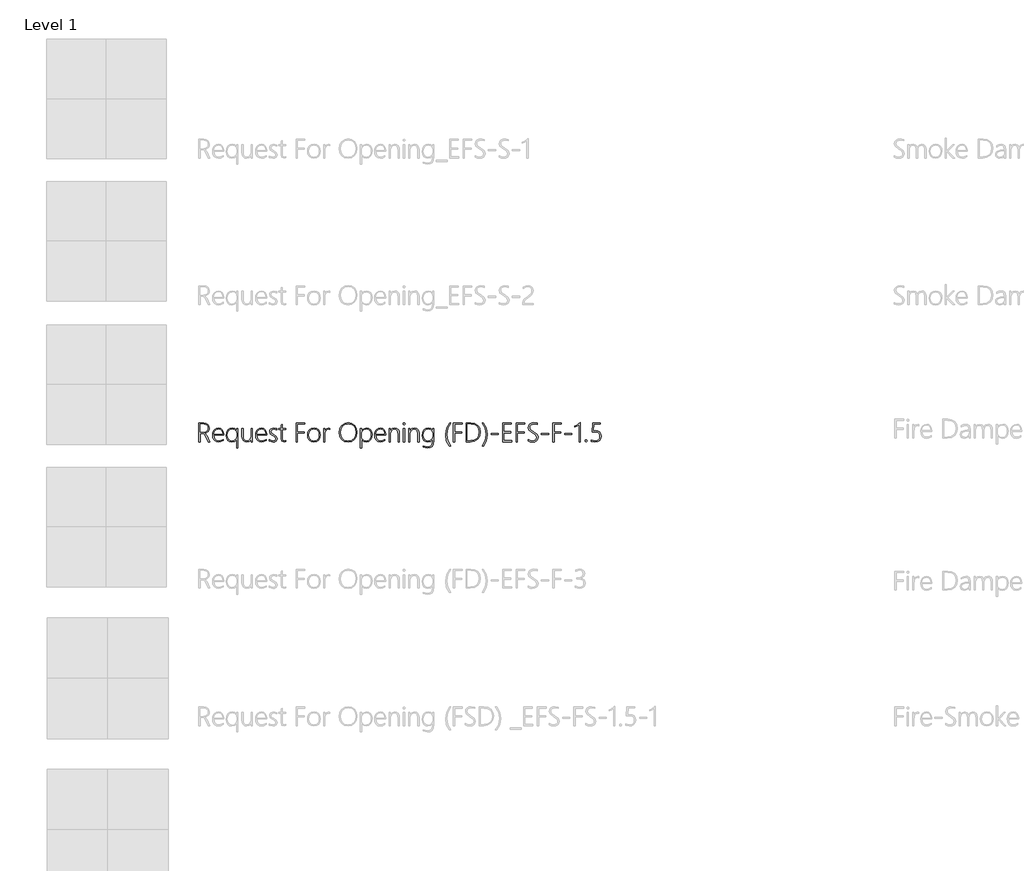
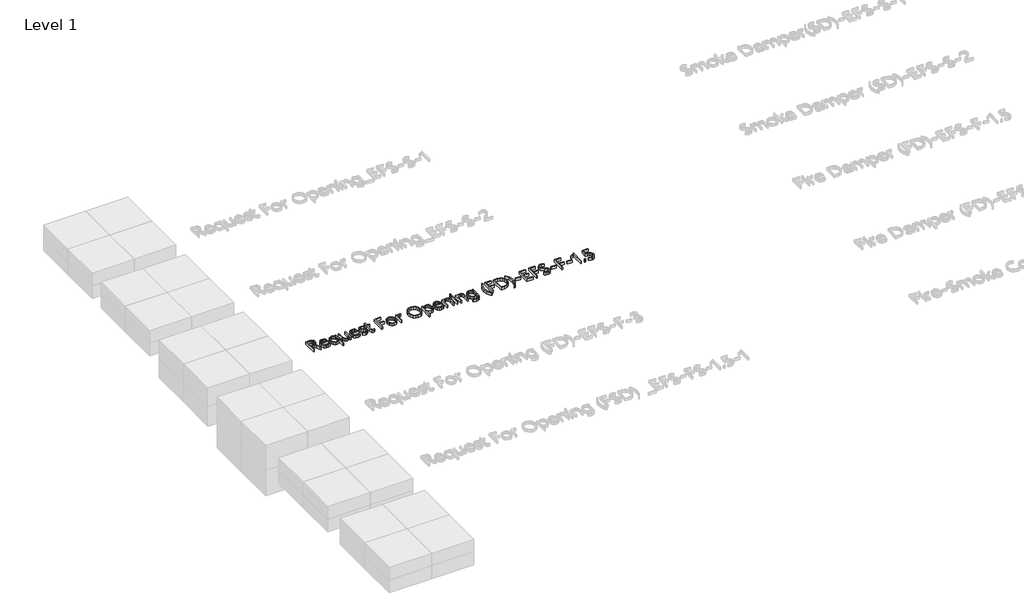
# One storey, part 6 of 13: 1 proxy.
"""IFC4 building model written with IfcOpenShell, lengths in millimetres."""

from ifc_helpers import new_model, si_unit, origin, origin_with_axes, place, context, project, spatial, polyline, outline, extrude, element, save

model = new_model("IFC4")

# Units and contexts
model_context = context("Model", 3, world=origin())
ifc_project = project(units=[si_unit("LENGTHUNIT", "METRE", prefix="MILLI")], contexts=[model_context])

# Site, building, storey
site = spatial("IfcSite", under=ifc_project)
building = spatial("IfcBuilding", under=site)
storey = spatial("IfcBuildingStorey", under=building, Name="Level 1", Elevation=0.0)

# Proxy
placement = place(None, origin())
element("IfcBuildingElementProxy", 1, Name="24\" Arial", ObjectType="24\" Arial", at=placement, inside=storey, context=model_context, shape_type="SweptSolid", body=[
    extrude(outline(polyline([(-15088.6743908, 7735.1768621), (-15102.0044774, 7764.4554451), (-15110.2316402, 7776.6399774), (-15120.5713837, 7779.7493391), (-15132.9790759, 7779.7493391), (-15132.9790759, 7735.1768621), (-15139.8821565, 7735.1768621), (-15139.8821565, 7835.1822661), (-15112.121061, 7835.1822661), (-15100.2973039, 7833.3932673), (-15091.307678, 7828.026271), (-15085.6282578, 7819.7358795), (-15083.7351177, 7809.1766954), (-15085.2860792, 7799.2423591), (-15089.9389638, 7791.1007409), (-15097.3813475, 7785.1460901), (-15107.3008065, 7781.7726558), (-15095.7262447, 7767.0441003), (-15080.8786706, 7735.1768621), (-15088.6743908, 7735.1768621)]), holes=[polyline([(-15132.9790759, 7828.844524), (-15132.9790759, 7786.0275718), (-15115.7511292, 7786.0275718), (-15105.4783337, 7787.5264627), (-15097.5710334, 7792.0231353), (-15092.527619, 7799.1307791), (-15090.8464808, 7808.4625836), (-15092.3639684, 7816.9798543), (-15096.916431, 7823.4291764), (-15104.2955861, 7827.4906871), (-15114.293151, 7828.844524), (-15132.9790759, 7828.844524)])]), origin_with_axes(), (0.0, 0.0, 1.0), 20.0),
    extrude(outline(polyline([(-15059.7528637, 7770.6146592), (-15058.0531289, 7757.4928552), (-15052.9539245, 7747.5845543), (-15044.8941316, 7741.3583922), (-15034.3126315, 7739.2830048), (-15022.4405231, 7741.4997268), (-15010.8659614, 7748.1498928), (-15010.8659614, 7741.3063215), (-15022.6041738, 7735.3925834), (-15035.6218364, 7733.4213373), (-15048.1039153, 7735.8984125), (-15057.9378296, 7743.3296383), (-15064.3202036, 7755.2761333), (-15066.4476617, 7771.2990163), (-15064.223501, 7785.6928319), (-15057.551019, 7797.6318883), (-15047.3228555, 7805.6656458), (-15034.4316501, 7808.343565), (-15022.6748411, 7806.004105), (-15014.0050777, 7798.9857252), (-15008.6603974, 7787.9281506), (-15006.8788373, 7773.4711063), (-15006.8788373, 7770.6146592), (-15059.7528637, 7770.6146592)]), holes=[polyline([(-15013.5736352, 7776.4763268), (-15015.284528, 7787.4260407), (-15019.5245667, 7795.6383262), (-15026.07803, 7800.7710046), (-15034.7291967, 7802.4818974), (-15043.8973506, 7800.79704), (-15051.347173, 7795.7424675), (-15056.676976, 7787.5562174), (-15059.4850718, 7776.4763268), (-15013.5736352, 7776.4763268)])]), origin_with_axes(), (0.0, 0.0, 1.0), 20.0),
    extrude(outline(polyline([(-14938.2348423, 7702.3277202), (-14938.2348423, 7748.2986661), (-14948.946519, 7737.1406695), (-14964.3891863, 7733.4213373), (-14976.4695772, 7735.8798159), (-14985.9315583, 7743.2552516), (-14992.0461405, 7754.8037781), (-14994.0843345, 7769.7815288), (-14991.7671906, 7785.7039899), (-14984.8157587, 7797.9443122), (-14974.2863292, 7805.7437518), (-14961.2351926, 7808.343565), (-14947.5629274, 7805.0110433), (-14938.5026342, 7795.0134784), (-14938.2348423, 7806.5880402), (-14931.8078363, 7806.5880402), (-14931.8078363, 7702.3277202), (-14938.2348423, 7702.3277202)]), holes=[polyline([(-14938.2348423, 7777.9938143), (-14939.7858038, 7787.731026), (-14944.4386884, 7795.5788169), (-14951.8438788, 7800.7561273), (-14961.6517578, 7802.4818974), (-14971.8055347, 7800.3470008), (-14980.0698908, 7793.9423107), (-14985.5596251, 7783.6992699), (-14987.3895366, 7770.0493207), (-14985.7604691, 7757.221344), (-14980.8732666, 7747.480413), (-14973.3899702, 7741.3323569), (-14963.9726211, 7739.2830048), (-14952.9448011, 7741.2021802), (-14944.8552536, 7746.9597065), (-14939.8899451, 7755.4918545), (-14938.2348423, 7765.7348954), (-14938.2348423, 7777.9938143)])]), origin_with_axes(), (0.0, 0.0, 1.0), 20.0),
    extrude(outline(polyline([(-14861.7951271, 7735.1768621), (-14861.7951271, 7748.1498928), (-14871.5620934, 7737.1034762), (-14885.0930239, 7733.4213373), (-14896.1710549, 7735.4148993), (-14904.0839341, 7741.3955855), (-14908.8316616, 7751.3633958), (-14910.4142375, 7765.3183302), (-14910.4142375, 7806.5880402), (-14903.9277221, 7806.5880402), (-14903.9277221, 7766.895327), (-14902.7338165, 7754.3872129), (-14899.1520996, 7745.8439068), (-14893.0040435, 7740.9232303), (-14884.1111202, 7739.2830048), (-14875.0917397, 7741.1129163), (-14867.9692185, 7746.6026506), (-14863.3386499, 7755.149676), (-14861.7951271, 7766.1514606), (-14861.7951271, 7806.5880402), (-14855.3978757, 7806.5880402), (-14855.3978757, 7735.1768621), (-14861.7951271, 7735.1768621)])), origin_with_axes(), (0.0, 0.0, 1.0), 20.0),
    extrude(outline(polyline([(-14831.2370938, 7770.6146592), (-14829.537359, 7757.4928552), (-14824.4381545, 7747.5845543), (-14816.3783617, 7741.3583922), (-14805.7968616, 7739.2830048), (-14793.9247532, 7741.4997268), (-14782.3501914, 7748.1498928), (-14782.3501914, 7741.3063215), (-14794.0884038, 7735.3925834), (-14807.1060665, 7733.4213373), (-14819.5881453, 7735.8984125), (-14829.4220597, 7743.3296383), (-14835.8044337, 7755.2761333), (-14837.9318917, 7771.2990163), (-14835.7077311, 7785.6928319), (-14829.0352491, 7797.6318883), (-14818.8070856, 7805.6656458), (-14805.9158802, 7808.343565), (-14794.1590711, 7806.004105), (-14785.4893078, 7798.9857252), (-14780.1446274, 7787.9281506), (-14778.3630673, 7773.4711063), (-14778.3630673, 7770.6146592), (-14831.2370938, 7770.6146592)]), holes=[polyline([(-14785.0578653, 7776.4763268), (-14786.7687581, 7787.4260407), (-14791.0087968, 7795.6383262), (-14797.5622601, 7800.7710046), (-14806.2134268, 7802.4818974), (-14815.3815806, 7800.79704), (-14822.831403, 7795.7424675), (-14828.161206, 7787.5562174), (-14830.9693018, 7776.4763268), (-14785.0578653, 7776.4763268)])]), origin_with_axes(), (0.0, 0.0, 1.0), 20.0),
    extrude(outline(polyline([(-14764.1105863, 7738.3011011), (-14764.1105863, 7746.0670667), (-14755.318085, 7741.0980389), (-14746.4065651, 7739.2830048), (-14733.798029, 7742.7196678), (-14729.5951836, 7753.0296566), (-14733.2847611, 7761.1080461), (-14745.2758881, 7768.026004), (-14759.6771424, 7777.2648252), (-14763.8130398, 7788.884019), (-14762.1504983, 7796.7652839), (-14757.1628738, 7802.9728493), (-14740.7531802, 7808.343565), (-14724.9832117, 7804.5647235), (-14724.9832117, 7797.304587), (-14741.4375373, 7802.4818974), (-14752.8038165, 7798.8220746), (-14757.1182418, 7789.3005842), (-14754.410568, 7781.0287894), (-14742.419441, 7773.7388983), (-14727.080915, 7764.4256904), (-14722.9003856, 7753.0296566), (-14724.4959792, 7745.2599717), (-14729.2827597, 7738.9705809), (-14736.8739167, 7734.8086482), (-14746.8826396, 7733.4213373), (-14764.1105863, 7738.3011011)])), origin_with_axes(), (0.0, 0.0, 1.0), 20.0),
    extrude(outline(polyline([(-14676.9294397, 7736.1587658), (-14686.3616662, 7733.7783932), (-14698.2337745, 7738.5242611), (-14702.191144, 7752.7618647), (-14702.191144, 7800.7263727), (-14715.0154014, 7800.7263727), (-14715.0154014, 7806.5880402), (-14702.191144, 7806.5880402), (-14702.191144, 7825.1251918), (-14698.977641, 7826.2558688), (-14695.764138, 7827.2972818), (-14695.764138, 7806.5880402), (-14676.9294397, 7806.5880402), (-14676.9294397, 7800.7263727), (-14695.764138, 7800.7263727), (-14695.764138, 7753.5949951), (-14693.4283973, 7742.8833184), (-14685.5285358, 7739.5805514), (-14676.9294397, 7742.1394519), (-14676.9294397, 7736.1587658)])), origin_with_axes(), (0.0, 0.0, 1.0), 20.0),
    extrude(outline(polyline([(-14615.0099974, 7828.844524), (-14615.0099974, 7788.0508885), (-14578.0547127, 7788.0508885), (-14578.0547127, 7781.7726558), (-14615.0099974, 7781.7726558), (-14615.0099974, 7735.1768621), (-14621.9130779, 7735.1768621), (-14621.9130779, 7835.1822661), (-14575.1685109, 7835.1822661), (-14575.1685109, 7828.844524), (-14615.0099974, 7828.844524)])), origin_with_axes(), (0.0, 0.0, 1.0), 20.0),
    extrude(outline(polyline([(-14527.9776241, 7733.4213373), (-14541.9697518, 7735.9951152), (-14552.7037445, 7743.7164488), (-14559.5324384, 7755.5513638), (-14561.8086697, 7770.4658859), (-14559.4282971, 7786.3213991), (-14552.2871793, 7798.3013681), (-14541.2630787, 7805.8330158), (-14527.2337576, 7808.343565), (-14513.5503345, 7805.8478931), (-14503.087853, 7798.3608774), (-14496.4488451, 7786.4627337), (-14494.2358424, 7770.7336778), (-14496.4934771, 7755.6555051), (-14503.266381, 7743.7462035), (-14513.959461, 7736.0025538), (-14527.9776241, 7733.4213373)]), holes=[polyline([(-14527.5015495, 7802.4818974), (-14538.8380741, 7800.3544394), (-14547.615698, 7793.9720654), (-14553.2393283, 7783.8034112), (-14555.1138717, 7770.3171126), (-14553.2839603, 7757.6788219), (-14547.794226, 7747.7928369), (-14539.128182, 7741.4104628), (-14527.7693415, 7739.2830048), (-14516.3621496, 7741.3769888), (-14507.9081076, 7747.6589409), (-14502.6750072, 7757.6527865), (-14500.9306404, 7770.8824511), (-14502.6638492, 7784.372469), (-14507.8634756, 7794.314244), (-14516.2394117, 7800.4399841), (-14527.5015495, 7802.4818974)])]), origin_with_axes(), (0.0, 0.0, 1.0), 20.0),
    extrude(outline(polyline([(-14442.9983221, 7799.8932422), (-14450.5262505, 7802.1843509), (-14458.2736194, 7800.0048222), (-14464.6745901, 7793.4662362), (-14468.9704188, 7782.9182101), (-14470.4023617, 7768.7103611), (-14470.4023617, 7735.1768621), (-14476.6805945, 7735.1768621), (-14476.6805945, 7806.5880402), (-14470.4023617, 7806.5880402), (-14470.4023617, 7790.7585624), (-14462.3686042, 7803.4489238), (-14450.1096853, 7807.9865091), (-14442.9983221, 7806.7368135), (-14442.9983221, 7799.8932422)])), origin_with_axes(), (0.0, 0.0, 1.0), 20.0),
    extrude(outline(polyline([(-14346.5337224, 7733.4213373), (-14365.5729839, 7736.9435449), (-14380.320136, 7747.5101676), (-14389.7709591, 7763.7078593), (-14392.9212335, 7784.1232737), (-14389.6854145, 7805.6656458), (-14379.9779574, 7822.4472727), (-14364.6766248, 7833.2482134), (-14344.6591789, 7836.8485269), (-14326.3563452, 7833.389548), (-14311.9141783, 7823.0126112), (-14302.5303032, 7807.0194827), (-14299.4023448, 7786.711929), (-14302.6084092, 7764.5409897), (-14312.2266022, 7747.6589409), (-14327.2155109, 7736.9807382), (-14346.5337224, 7733.4213373)]), holes=[polyline([(-14345.8196106, 7830.5702942), (-14361.712317, 7827.4163005), (-14374.5179778, 7817.9543194), (-14382.9645812, 7803.3819758), (-14385.7801157, 7784.8968948), (-14383.1133545, 7766.3523045), (-14375.1130709, 7752.0179983), (-14362.6719047, 7742.8461251), (-14346.6824956, 7739.788834), (-14330.0570807, 7742.8126511), (-14317.3146486, 7751.8841023), (-14309.2139431, 7766.3634625), (-14306.513708, 7785.6110066), (-14309.1544338, 7804.4717402), (-14317.0766114, 7818.6833085), (-14329.5438129, 7827.5985477), (-14345.8196106, 7830.5702942)])]), origin_with_axes(), (0.0, 0.0, 1.0), 20.0),
    extrude(outline(polyline([(-14273.843094, 7747.8821009), (-14274.1108859, 7702.3277202), (-14280.5378919, 7702.3277202), (-14280.5378919, 7806.5880402), (-14274.1108859, 7806.5880402), (-14274.1108859, 7791.8594847), (-14262.848748, 7804.044017), (-14247.1234115, 7808.343565), (-14235.0169852, 7805.9966664), (-14225.8934633, 7798.9559705), (-14220.1694111, 7787.8909573), (-14218.2613937, 7773.4711063), (-14220.448361, 7757.2510986), (-14227.009263, 7744.4751926), (-14237.1630399, 7736.1848011), (-14250.1286319, 7733.4213373), (-14264.0761276, 7737.0365282), (-14273.843094, 7747.8821009)]), holes=[polyline([(-14274.1108859, 7774.45301), (-14274.1108859, 7765.4373488), (-14272.4185897, 7755.4546612), (-14267.3417013, 7746.9894611), (-14259.512507, 7741.2096189), (-14249.5632934, 7739.2830048), (-14239.6438345, 7741.6299034), (-14231.7848855, 7748.6705993), (-14226.6633651, 7759.52733), (-14224.9561916, 7773.3223331), (-14226.5257498, 7785.335776), (-14231.2344244, 7794.5969132), (-14238.5540701, 7800.5106514), (-14247.9565419, 7802.4818974), (-14259.0364325, 7800.3879134), (-14267.282192, 7794.1059614), (-14272.4037124, 7785.0047555), (-14274.1108859, 7774.45301)])]), origin_with_axes(), (0.0, 0.0, 1.0), 20.0),
    extrude(outline(polyline([(-14199.0101303, 7770.6146592), (-14197.3103954, 7757.4928552), (-14192.211191, 7747.5845543), (-14184.1513981, 7741.3583922), (-14173.5698981, 7739.2830048), (-14161.6977897, 7741.4997268), (-14150.1232279, 7748.1498928), (-14150.1232279, 7741.3063215), (-14161.8614403, 7735.3925834), (-14174.879103, 7733.4213373), (-14187.3611818, 7735.8984125), (-14197.1950961, 7743.3296383), (-14203.5774702, 7755.2761333), (-14205.7049282, 7771.2990163), (-14203.4807675, 7785.6928319), (-14196.8082856, 7797.6318883), (-14186.5801221, 7805.6656458), (-14173.6889167, 7808.343565), (-14161.9321076, 7806.004105), (-14153.2623443, 7798.9857252), (-14147.9176639, 7787.9281506), (-14146.1361038, 7773.4711063), (-14146.1361038, 7770.6146592), (-14199.0101303, 7770.6146592)]), holes=[polyline([(-14152.8309017, 7776.4763268), (-14154.5417946, 7787.4260407), (-14158.7818333, 7795.6383262), (-14165.3352966, 7800.7710046), (-14173.9864633, 7802.4818974), (-14183.1546171, 7800.79704), (-14190.6044395, 7795.7424675), (-14195.9342425, 7787.5562174), (-14198.7423383, 7776.4763268), (-14152.8309017, 7776.4763268)])]), origin_with_axes(), (0.0, 0.0, 1.0), 20.0),
    extrude(outline(polyline([(-14079.6344442, 7735.1768621), (-14079.6344442, 7776.7441187), (-14084.2761708, 7796.0474528), (-14090.078329, 7800.8732863), (-14098.2013505, 7802.4818974), (-14107.6001029, 7800.5887574), (-14115.146628, 7794.9093371), (-14120.1119364, 7786.4404177), (-14121.7670393, 7776.1787802), (-14121.7670393, 7735.1768621), (-14128.1940453, 7735.1768621), (-14128.1940453, 7806.5880402), (-14121.7670393, 7806.5880402), (-14121.7670393, 7793.6150095), (-14111.4793664, 7804.6614261), (-14097.0706735, 7808.343565), (-14086.8573873, 7806.4169509), (-14079.3666523, 7800.6371087), (-14074.7695577, 7791.2792689), (-14073.2371928, 7778.6186621), (-14073.2371928, 7735.1768621), (-14079.6344442, 7735.1768621)])), origin_with_axes(), (0.0, 0.0, 1.0), 20.0),
    extrude(outline(polyline([(-14048.8681283, 7824.589608), (-14052.5577058, 7826.1219729), (-14054.1644573, 7830.0347103), (-14052.5279512, 7833.7540425), (-14048.8681283, 7835.1822661), (-14045.0595321, 7833.7837972), (-14043.4230259, 7830.0347103), (-14045.0297775, 7826.1963595), (-14048.8681283, 7824.589608)])), origin_with_axes(), (0.0, 0.0, 1.0), 20.0),
    extrude(outline(polyline([(-14052.022122, 7735.1768621), (-14052.022122, 7806.5880402), (-14045.595116, 7806.5880402), (-14045.595116, 7735.1768621), (-14052.022122, 7735.1768621)])), origin_with_axes(), (0.0, 0.0, 1.0), 20.0),
    extrude(outline(polyline([(-13974.8980496, 7735.1768621), (-13974.8980496, 7776.7441187), (-13979.5397762, 7796.0474528), (-13985.3419344, 7800.8732863), (-13993.4649559, 7802.4818974), (-14002.8637084, 7800.5887574), (-14010.4102334, 7794.9093371), (-14015.3755419, 7786.4404177), (-14017.0306447, 7776.1787802), (-14017.0306447, 7735.1768621), (-14023.4576507, 7735.1768621), (-14023.4576507, 7806.5880402), (-14017.0306447, 7806.5880402), (-14017.0306447, 7793.6150095), (-14006.7429719, 7804.6614261), (-13992.3342789, 7808.343565), (-13982.1209927, 7806.4169509), (-13974.6302577, 7800.6371087), (-13970.0331631, 7791.2792689), (-13968.5007983, 7778.6186621), (-13968.5007983, 7735.1768621), (-13974.8980496, 7735.1768621)])), origin_with_axes(), (0.0, 0.0, 1.0), 20.0),
    extrude(outline(polyline([(-13890.1567849, 7740.4731911), (-13892.3549103, 7723.0295231), (-13898.9492862, 7710.9863255), (-13910.1779501, 7703.9791036), (-13926.2789392, 7701.643363), (-13947.5535193, 7707.0587107), (-13947.5535193, 7713.7535087), (-13926.1301659, 7707.5050306), (-13913.2036269, 7709.45768), (-13903.9703847, 7715.3156282), (-13898.4304394, 7725.0788752), (-13896.583791, 7738.747421), (-13896.583791, 7748.0011195), (-13907.5111889, 7737.0662828), (-13922.5893617, 7733.4213373), (-13934.5581727, 7735.8128679), (-13944.1019791, 7742.9874597), (-13950.3504571, 7754.4318448), (-13952.4332832, 7769.6327555), (-13950.1830872, 7785.1460901), (-13943.4324993, 7797.527747), (-13933.0072111, 7805.6396105), (-13919.7329145, 7808.343565), (-13906.1275974, 7805.0779913), (-13896.8515829, 7795.2812703), (-13896.583791, 7806.5880402), (-13890.1567849, 7806.5880402), (-13890.1567849, 7740.4731911)]), holes=[polyline([(-13896.583791, 7779.1840006), (-13898.1793845, 7788.0285725), (-13902.966165, 7795.5788169), (-13910.3118461, 7800.7561273), (-13919.5841412, 7802.4818974), (-13930.217712, 7800.2651755), (-13938.5527354, 7793.6150095), (-13943.9420478, 7783.3273367), (-13945.7384852, 7770.198094), (-13944.0908211, 7757.165554), (-13939.1478286, 7747.4060263), (-13931.5046009, 7741.3137602), (-13921.7562312, 7739.2830048), (-13911.4127684, 7741.1501096), (-13903.4124849, 7746.7514239), (-13898.2909644, 7755.0529733), (-13896.583791, 7765.0207836), (-13896.583791, 7779.1840006)])]), origin_with_axes(), (0.0, 0.0, 1.0), 20.0),
    extrude(outline(polyline([(-13807.1412904, 7712.4443037), (-13822.9856455, 7739.9748006), (-13828.2670972, 7773.1735598), (-13822.9186975, 7807.5104346), (-13806.8734985, 7835.1822661), (-13800.0299272, 7835.1822661), (-13816.4098662, 7807.1608173), (-13821.8698459, 7773.3223331), (-13816.4842529, 7740.7707377), (-13800.3274738, 7712.4443037), (-13807.1412904, 7712.4443037)])), origin_with_axes(), (0.0, 0.0, 1.0), 20.0),
    extrude(outline(polyline([(-13779.023139, 7828.844524), (-13779.023139, 7788.0508885), (-13742.0678543, 7788.0508885), (-13742.0678543, 7781.7726558), (-13779.023139, 7781.7726558), (-13779.023139, 7735.1768621), (-13785.9262196, 7735.1768621), (-13785.9262196, 7835.1822661), (-13739.1816526, 7835.1822661), (-13739.1816526, 7828.844524), (-13779.023139, 7828.844524)])), origin_with_axes(), (0.0, 0.0, 1.0), 20.0),
    extrude(outline(polyline([(-13719.2757867, 7735.1768621), (-13719.2757867, 7835.1822661), (-13694.222365, 7835.1822661), (-13672.3229371, 7832.080343), (-13656.3744406, 7822.7745739), (-13646.6446676, 7807.5178732), (-13643.4014099, 7786.5631557), (-13646.8789855, 7765.8576333), (-13657.3117123, 7749.4442204), (-13673.8664599, 7738.7437017), (-13695.7100979, 7735.1768621), (-13719.2757867, 7735.1768621)]), holes=[polyline([(-13712.3727061, 7828.844524), (-13712.3727061, 7741.4550948), (-13696.6622469, 7741.4550948), (-13677.0092956, 7744.3412966), (-13662.5039001, 7752.999902), (-13653.5551868, 7767.096171), (-13650.5722824, 7786.2953637), (-13653.3655009, 7804.9106214), (-13661.7451563, 7818.207234), (-13675.7112487, 7826.1852015), (-13695.263778, 7828.844524), (-13712.3727061, 7828.844524)])]), origin_with_axes(), (0.0, 0.0, 1.0), 20.0),
    extrude(outline(polyline([(-13626.2627272, 7712.4443037), (-13633.1062984, 7712.4443037), (-13616.9272034, 7740.7707377), (-13611.5341717, 7773.3223331), (-13616.9941513, 7807.1608173), (-13633.3740903, 7835.1822661), (-13626.5305191, 7835.1822661), (-13610.48532, 7807.4360479), (-13605.1369203, 7773.1735598), (-13610.418372, 7739.900414), (-13626.2627272, 7712.4443037)])), origin_with_axes(), (0.0, 0.0, 1.0), 20.0),
    extrude(outline(polyline([(-13584.8739985, 7773.8876715), (-13584.8739985, 7780.1659043), (-13546.7285276, 7780.1659043), (-13546.7285276, 7773.8876715), (-13584.8739985, 7773.8876715)])), origin_with_axes(), (0.0, 0.0, 1.0), 20.0),
    extrude(outline(polyline([(-13525.0373822, 7735.1768621), (-13525.0373822, 7835.1822661), (-13478.2928152, 7835.1822661), (-13478.2928152, 7828.844524), (-13518.1343017, 7828.844524), (-13518.1343017, 7788.7352457), (-13481.179017, 7788.7352457), (-13481.179017, 7782.4570129), (-13518.1343017, 7782.4570129), (-13518.1343017, 7741.4550948), (-13476.0017066, 7741.4550948), (-13476.0017066, 7735.1768621), (-13525.0373822, 7735.1768621)])), origin_with_axes(), (0.0, 0.0, 1.0), 20.0),
    extrude(outline(polyline([(-13445.7709745, 7828.844524), (-13445.7709745, 7788.0508885), (-13408.8156898, 7788.0508885), (-13408.8156898, 7781.7726558), (-13445.7709745, 7781.7726558), (-13445.7709745, 7735.1768621), (-13452.6740551, 7735.1768621), (-13452.6740551, 7835.1822661), (-13405.9294881, 7835.1822661), (-13405.9294881, 7828.844524), (-13445.7709745, 7828.844524)])), origin_with_axes(), (0.0, 0.0, 1.0), 20.0),
    extrude(outline(polyline([(-13389.1478612, 7738.747421), (-13389.1478612, 7746.6026506), (-13378.3394818, 7741.4922881), (-13367.3972065, 7739.788834), (-13349.6039213, 7744.6239659), (-13345.0514587, 7750.4298434), (-13343.5339712, 7758.1772124), (-13347.6252366, 7770.4212539), (-13365.3143805, 7782.8735781), (-13384.5507666, 7797.7062749), (-13388.5825227, 7811.467804), (-13386.525732, 7821.2608057), (-13380.3553599, 7829.4544945), (-13370.7557635, 7835.0000188), (-13358.4113, 7836.8485269), (-13340.5585054, 7833.8433065), (-13340.5585054, 7826.6129247), (-13359.3039397, 7830.5702942), (-13375.4458414, 7825.4078611), (-13379.920198, 7819.5499129), (-13381.4116502, 7812.3009344), (-13377.3352622, 7800.1015248), (-13359.7205049, 7787.753342), (-13341.0643346, 7773.634757), (-13336.422608, 7759.4566626), (-13338.4198894, 7749.0053392), (-13344.4117336, 7740.6814737), (-13354.0485233, 7735.2363714), (-13366.9806413, 7733.4213373), (-13378.867627, 7735.0280888), (-13389.1478612, 7738.747421)])), origin_with_axes(), (0.0, 0.0, 1.0), 20.0),
    extrude(outline(polyline([(-13318.2722669, 7773.8876715), (-13318.2722669, 7780.1659043), (-13280.126796, 7780.1659043), (-13280.126796, 7773.8876715), (-13318.2722669, 7773.8876715)])), origin_with_axes(), (0.0, 0.0, 1.0), 20.0),
    extrude(outline(polyline([(-13251.5325701, 7828.844524), (-13251.5325701, 7788.0508885), (-13214.5772854, 7788.0508885), (-13214.5772854, 7781.7726558), (-13251.5325701, 7781.7726558), (-13251.5325701, 7735.1768621), (-13258.4356506, 7735.1768621), (-13258.4356506, 7835.1822661), (-13211.6910836, 7835.1822661), (-13211.6910836, 7828.844524), (-13251.5325701, 7828.844524)])), origin_with_axes(), (0.0, 0.0, 1.0), 20.0),
    extrude(outline(polyline([(-13194.4928915, 7773.8876715), (-13194.4928915, 7780.1659043), (-13156.3474206, 7780.1659043), (-13156.3474206, 7773.8876715), (-13194.4928915, 7773.8876715)])), origin_with_axes(), (0.0, 0.0, 1.0), 20.0),
    extrude(outline(polyline([(-13110.7930399, 7837.4138654), (-13110.7930399, 7735.1768621), (-13117.2200459, 7735.1768621), (-13117.2200459, 7827.2972818), (-13128.1995145, 7819.3379109), (-13141.6783744, 7813.4316114), (-13141.6783744, 7819.293279), (-13133.5404756, 7822.596046), (-13126.3249711, 7826.672434), (-13119.6301732, 7831.5819525), (-13113.0246392, 7837.4138654), (-13110.7930399, 7837.4138654)])), origin_with_axes(), (0.0, 0.0, 1.0), 20.0),
    extrude(outline(polyline([(-13080.2350066, 7733.9271665), (-13084.2072533, 7735.5636726), (-13085.7991275, 7739.5805514), (-13084.2072533, 7743.5825528), (-13080.2350066, 7745.1446724), (-13076.1883731, 7743.5825528), (-13074.5221123, 7739.5805514), (-13076.1883731, 7735.5636726), (-13080.2350066, 7733.9271665)])), origin_with_axes(), (0.0, 0.0, 1.0), 20.0),
    extrude(outline(polyline([(-13052.5334204, 7737.2001788), (-13052.5334204, 7744.5793339), (-13033.4309302, 7739.2830048), (-13022.4886549, 7740.975301), (-13014.2391761, 7746.0521894), (-13009.0618657, 7753.9334543), (-13007.3360956, 7764.0388799), (-13009.0748834, 7774.726381), (-13014.2912468, 7782.3603103), (-13022.9851858, 7786.9406679), (-13035.1567004, 7788.4674537), (-13049.5282, 7787.6343233), (-13046.5229796, 7835.1822661), (-13004.8962137, 7835.1822661), (-13004.8962137, 7829.3205986), (-13040.8100853, 7829.3205986), (-13043.1309486, 7793.7637828), (-13032.8060824, 7794.3291213), (-13018.8920607, 7792.3839105), (-13008.8089511, 7786.5482783), (-13002.683211, 7777.2387899), (-13000.6412976, 7764.8720103), (-13002.8022296, 7752.1816489), (-13009.2850256, 7742.1394519), (-13019.7847004, 7735.600866), (-13033.9962687, 7733.4213373), (-13052.5334204, 7737.2001788)])), origin_with_axes(), (0.0, 0.0, 1.0), 20.0),
])

save(model, "model.ifc")
